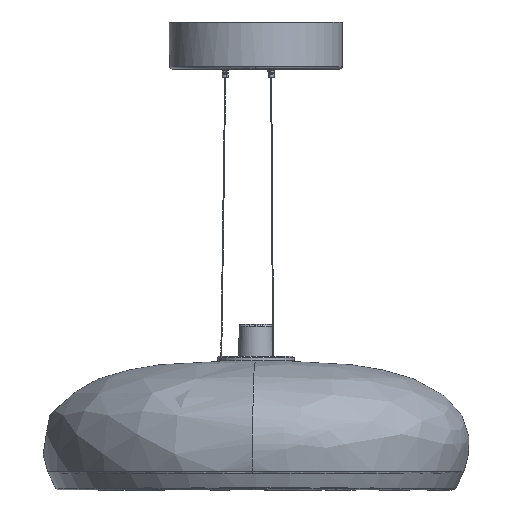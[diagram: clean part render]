
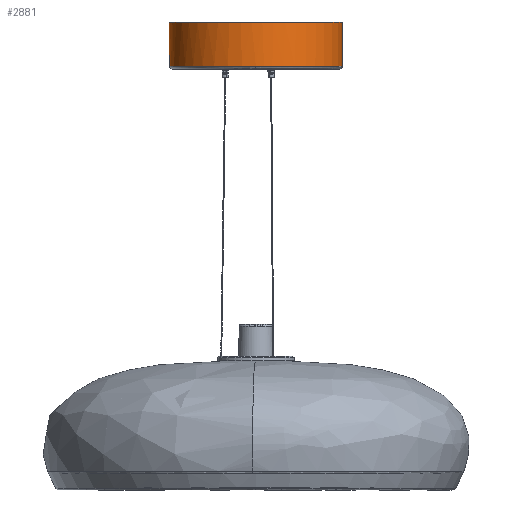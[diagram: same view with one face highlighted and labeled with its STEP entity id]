
A CAD part, front view. The second image highlights one B-rep face of the part: STEP entity #2881.
In plain terms, the highlighted cylindrical face has radius 90 mm (diameter 180 mm), a partial arc.
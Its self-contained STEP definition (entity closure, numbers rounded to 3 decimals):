
#1612=B_SPLINE_CURVE_WITH_KNOTS('',1,(#32618,#32619),.UNSPECIFIED.,.F.,
 .F.,(2,2),(4.72,50.72),.UNSPECIFIED.);
#1620=B_SPLINE_CURVE_WITH_KNOTS('',1,(#32740,#32741),.UNSPECIFIED.,.F.,
 .F.,(2,2),(4.72,50.72),.UNSPECIFIED.);
#1994=CYLINDRICAL_SURFACE('',#16359,90.);
#2881=ADVANCED_FACE('',(#3818),#1994,.T.);
#3818=FACE_OUTER_BOUND('',#4945,.T.);
#4945=EDGE_LOOP('',(#8935,#8936,#8937,#8938,#8939));
#8935=ORIENTED_EDGE('',*,*,#11637,.T.);
#8936=ORIENTED_EDGE('',*,*,#11604,.T.);
#8937=ORIENTED_EDGE('',*,*,#11605,.F.);
#8938=ORIENTED_EDGE('',*,*,#11638,.F.);
#8939=ORIENTED_EDGE('',*,*,#11636,.F.);
#11604=EDGE_CURVE('',#14499,#14500,#1612,.T.);
#11605=EDGE_CURVE('',#14502,#14500,#13022,.T.);
#11636=EDGE_CURVE('',#14523,#14524,#1620,.T.);
#11637=EDGE_CURVE('',#14523,#14499,#13046,.T.);
#11638=EDGE_CURVE('',#14524,#14502,#13047,.T.);
#13022=(
BOUNDED_CURVE()
B_SPLINE_CURVE(2,(#32620,#32621,#32622),.UNSPECIFIED.,.F.,.F.)
B_SPLINE_CURVE_WITH_KNOTS((3,3),(0.,136.659),.UNSPECIFIED.)
CURVE()
GEOMETRIC_REPRESENTATION_ITEM()
RATIONAL_B_SPLINE_CURVE((1.,0.707,1.))
REPRESENTATION_ITEM('')
);
#13046=(
BOUNDED_CURVE()
B_SPLINE_CURVE(2,(#32742,#32743,#32744,#32745,#32746),.UNSPECIFIED.,.F.,
 .F.)
B_SPLINE_CURVE_WITH_KNOTS((3,2,3),(282.743,424.115,565.487),
 .UNSPECIFIED.)
CURVE()
GEOMETRIC_REPRESENTATION_ITEM()
RATIONAL_B_SPLINE_CURVE((1.,0.707,1.,0.707,1.))
REPRESENTATION_ITEM('')
);
#13047=(
BOUNDED_CURVE()
B_SPLINE_CURVE(2,(#32747,#32748,#32749),.UNSPECIFIED.,.F.,.F.)
B_SPLINE_CURVE_WITH_KNOTS((3,3),(409.978,546.637),
 .UNSPECIFIED.)
CURVE()
GEOMETRIC_REPRESENTATION_ITEM()
RATIONAL_B_SPLINE_CURVE((1.,0.707,1.))
REPRESENTATION_ITEM('')
);
#14499=VERTEX_POINT('',#32510);
#14500=VERTEX_POINT('',#32511);
#14502=VERTEX_POINT('',#32513);
#14523=VERTEX_POINT('',#32534);
#14524=VERTEX_POINT('',#32535);
#16359=AXIS2_PLACEMENT_3D('',#32406,#17109,$);
#17109=DIRECTION('',(0.,0.,-1.));
#32406=CARTESIAN_POINT('',(0.,0.,-23.));
#32510=CARTESIAN_POINT('',(-90.,0.,0.));
#32511=CARTESIAN_POINT('',(-90.,0.,-46.));
#32513=CARTESIAN_POINT('',(0.,-90.,-46.));
#32534=CARTESIAN_POINT('',(90.,0.,0.));
#32535=CARTESIAN_POINT('',(90.,0.,-46.));
#32618=CARTESIAN_POINT('',(-90.,0.,0.));
#32619=CARTESIAN_POINT('',(-90.,0.,-46.));
#32620=CARTESIAN_POINT('',(0.,-90.,-46.));
#32621=CARTESIAN_POINT('',(-90.,-90.,-46.));
#32622=CARTESIAN_POINT('',(-90.,0.,-46.));
#32740=CARTESIAN_POINT('',(90.,0.,0.));
#32741=CARTESIAN_POINT('',(90.,0.,-46.));
#32742=CARTESIAN_POINT('',(90.,0.,0.));
#32743=CARTESIAN_POINT('',(90.,-90.,0.));
#32744=CARTESIAN_POINT('',(0.,-90.,0.));
#32745=CARTESIAN_POINT('',(-90.,-90.,0.));
#32746=CARTESIAN_POINT('',(-90.,0.,0.));
#32747=CARTESIAN_POINT('',(90.,0.,-46.));
#32748=CARTESIAN_POINT('',(90.,-90.,-46.));
#32749=CARTESIAN_POINT('',(0.,-90.,-46.));
